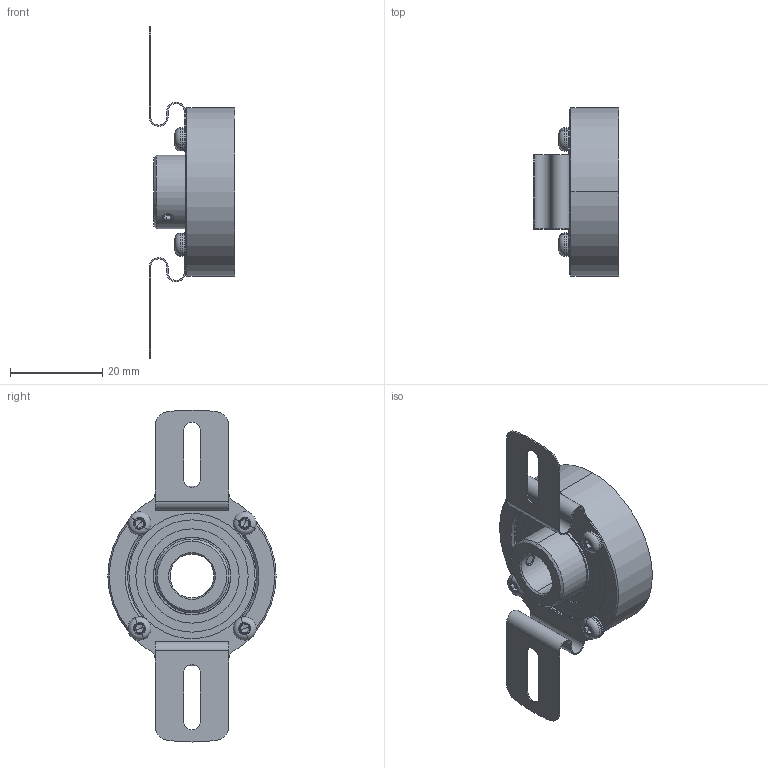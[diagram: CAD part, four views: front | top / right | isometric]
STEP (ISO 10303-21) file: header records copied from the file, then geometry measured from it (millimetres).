
FILE_DESCRIPTION (( 'STEP AP214' ), '1' );
FILE_NAME ('drawing-ucd-asb0-q3a-n.STEP', '2017-01-16T10:36:06', ( '' ), ( '' ), 'SwSTEP 2.0', 'SolidWorks 2015', '' );
FILE_SCHEMA (( 'AUTOMOTIVE_DESIGN' ));
Length unit declared in the file: millimetre
Products named in the file (1): drawing-ucd-asb0-q3a-n
Bounding box: 18.5 x 36.5 x 72 mm (x, y, z)
Volume: 9584.3 mm3; surface area: 13944.3 mm2
Topology: 23 solids, 23 shells, 519 faces, 1291 edges, 795 vertices
Faces by surface type: cylinder 174, plane 127, cone 114, bspline 64, torus 40
Entity records: 18402 total; most frequent: CARTESIAN_POINT 5902, DIRECTION 2632, ORIENTED_EDGE 2490, EDGE_CURVE 1245, AXIS2_PLACEMENT_3D 1137, VERTEX_POINT 795, CIRCLE 681, EDGE_LOOP 588
